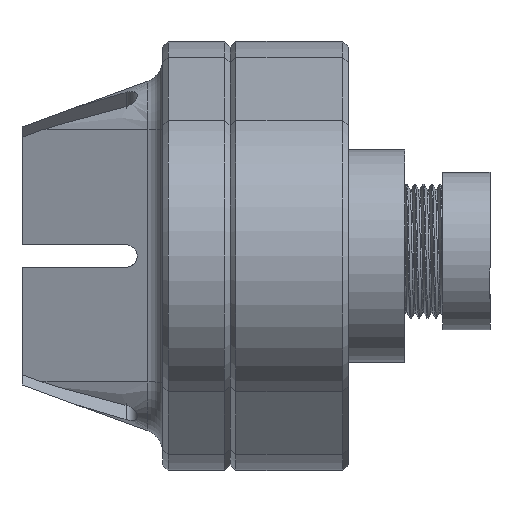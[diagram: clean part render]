
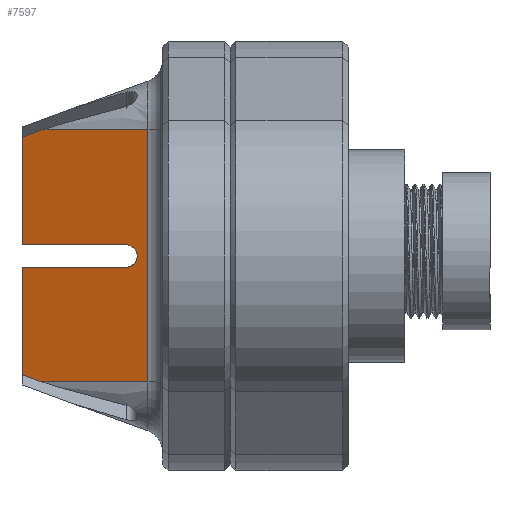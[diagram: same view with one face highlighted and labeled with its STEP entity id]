
A CAD part, left-side view. The second image highlights one B-rep face of the part: STEP entity #7597.
In plain terms, the highlighted planar face has unit normal (-0.94, 0.342, 0) as drawn and (-0.94, 0, -0.342) by its records, which use the part's own axes.
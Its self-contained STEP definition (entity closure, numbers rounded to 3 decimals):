
#13=ELLIPSE('',#8369,1.064,1.);
#546=PLANE('',#8368);
#974=FACE_OUTER_BOUND('',#1477,.T.);
#1477=EDGE_LOOP('',(#6781,#6782,#6783,#6784,#6785,#6786,#6787,#6788,#6789,
#6790));
#2083=LINE('',#15227,#2707);
#2096=LINE('',#15304,#2720);
#2097=LINE('',#15333,#2721);
#2098=LINE('',#15335,#2722);
#2099=LINE('',#15337,#2723);
#2100=LINE('',#15339,#2724);
#2101=LINE('',#15343,#2725);
#2102=LINE('',#15345,#2726);
#2103=LINE('',#15346,#2727);
#2707=VECTOR('',#10301,10.);
#2720=VECTOR('',#10358,1000.);
#2721=VECTOR('',#10361,1000.);
#2722=VECTOR('',#10362,1000.);
#2723=VECTOR('',#10363,1000.);
#2724=VECTOR('',#10364,1000.);
#2725=VECTOR('',#10367,1000.);
#2726=VECTOR('',#10368,1000.);
#2727=VECTOR('',#10369,1000.);
#3692=VERTEX_POINT('',#15224);
#3693=VERTEX_POINT('',#15226);
#3711=VERTEX_POINT('',#15303);
#3714=VERTEX_POINT('',#15332);
#3715=VERTEX_POINT('',#15334);
#3716=VERTEX_POINT('',#15336);
#3717=VERTEX_POINT('',#15338);
#3718=VERTEX_POINT('',#15340);
#3719=VERTEX_POINT('',#15342);
#3720=VERTEX_POINT('',#15344);
#4723=EDGE_CURVE('',#3692,#3693,#2083,.T.);
#4751=EDGE_CURVE('',#3711,#3693,#2096,.T.);
#4755=EDGE_CURVE('',#3714,#3692,#2097,.T.);
#4756=EDGE_CURVE('',#3714,#3715,#2098,.T.);
#4757=EDGE_CURVE('',#3716,#3715,#2099,.T.);
#4758=EDGE_CURVE('',#3716,#3717,#2100,.T.);
#4759=EDGE_CURVE('',#3717,#3718,#13,.T.);
#4760=EDGE_CURVE('',#3718,#3719,#2101,.T.);
#4761=EDGE_CURVE('',#3720,#3719,#2102,.T.);
#4762=EDGE_CURVE('',#3720,#3711,#2103,.T.);
#6781=ORIENTED_EDGE('',*,*,#4723,.F.);
#6782=ORIENTED_EDGE('',*,*,#4755,.F.);
#6783=ORIENTED_EDGE('',*,*,#4756,.T.);
#6784=ORIENTED_EDGE('',*,*,#4757,.F.);
#6785=ORIENTED_EDGE('',*,*,#4758,.T.);
#6786=ORIENTED_EDGE('',*,*,#4759,.T.);
#6787=ORIENTED_EDGE('',*,*,#4760,.T.);
#6788=ORIENTED_EDGE('',*,*,#4761,.F.);
#6789=ORIENTED_EDGE('',*,*,#4762,.T.);
#6790=ORIENTED_EDGE('',*,*,#4751,.T.);
#7597=ADVANCED_FACE('',(#974),#546,.T.);
#8368=AXIS2_PLACEMENT_3D('',#15331,#10359,#10360);
#8369=AXIS2_PLACEMENT_3D('',#15341,#10365,#10366);
#10301=DIRECTION('',(0.,-1.,0.));
#10358=DIRECTION('',(-0.342,0.,0.94));
#10359=DIRECTION('center_axis',(-0.94,0.,
-0.342));
#10360=DIRECTION('ref_axis',(-0.342,0.,0.94));
#10361=DIRECTION('',(-0.342,0.,0.94));
#10362=DIRECTION('',(0.324,-0.324,-0.889));
#10363=DIRECTION('',(0.,1.,0.));
#10364=DIRECTION('',(-0.342,0.,0.94));
#10365=DIRECTION('center_axis',(0.94,0.,
0.342));
#10366=DIRECTION('ref_axis',(0.342,0.,-0.94));
#10367=DIRECTION('',(0.342,0.,-0.94));
#10368=DIRECTION('',(0.,1.,0.));
#10369=DIRECTION('',(-0.324,-0.324,0.889));
#15224=CARTESIAN_POINT('',(-0.164,28.275,-7.316));
#15226=CARTESIAN_POINT('',(-0.164,5.875,-7.316));
#15227=CARTESIAN_POINT('',(-0.164,11.475,-7.316));
#15303=CARTESIAN_POINT('',(3.261,5.875,-16.726));
#15304=CARTESIAN_POINT('',(-0.825,5.875,-5.5));
#15331=CARTESIAN_POINT('Origin',(-0.825,5.875,-5.5));
#15332=CARTESIAN_POINT('',(3.261,28.275,-16.726));
#15333=CARTESIAN_POINT('',(-0.825,28.275,-5.5));
#15334=CARTESIAN_POINT('',(3.907,27.629,-18.5));
#15335=CARTESIAN_POINT('',(1.949,29.587,-13.121));
#15336=CARTESIAN_POINT('',(3.907,18.075,-18.5));
#15337=CARTESIAN_POINT('',(3.907,5.875,-18.5));
#15338=CARTESIAN_POINT('',(0.542,18.075,-9.255));
#15339=CARTESIAN_POINT('',(-0.825,18.075,-5.5));
#15340=CARTESIAN_POINT('',(0.542,16.075,-9.255));
#15341=CARTESIAN_POINT('Origin',(0.542,17.075,-9.255));
#15342=CARTESIAN_POINT('',(3.907,16.075,-18.5));
#15343=CARTESIAN_POINT('',(-0.825,16.075,-5.5));
#15344=CARTESIAN_POINT('',(3.907,6.521,-18.5));
#15345=CARTESIAN_POINT('',(3.907,5.875,-18.5));
#15346=CARTESIAN_POINT('',(-0.397,2.217,-6.676));
